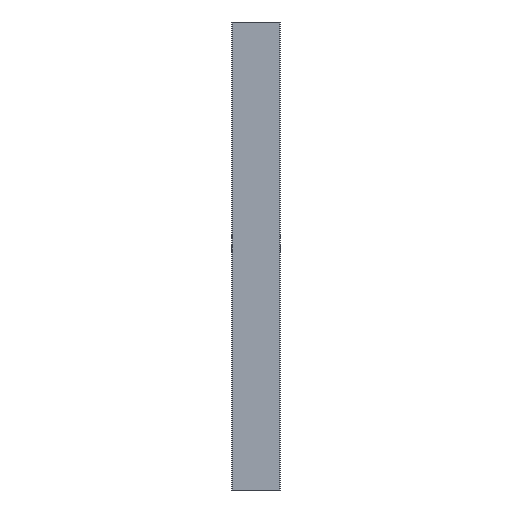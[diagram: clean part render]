
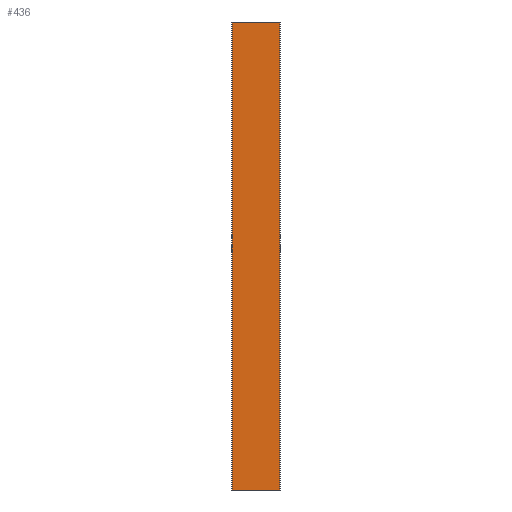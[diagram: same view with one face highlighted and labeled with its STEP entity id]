
A CAD part, front view. The second image highlights one B-rep face of the part: STEP entity #436.
In plain terms, the highlighted planar face has unit normal (0, -1, 0).
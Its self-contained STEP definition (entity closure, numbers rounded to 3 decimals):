
#409 = ORIENTED_EDGE ( 'NONE', *, *, #433, .F. ) ;
#410 = EDGE_CURVE ( 'NONE', #466, #438, #1094, .T. ) ;
#427 = EDGE_CURVE ( 'NONE', #466, #475, #1113, .T. ) ;
#428 = EDGE_LOOP ( 'NONE', ( #477, #409, #434, #435 ) ) ;
#430 = EDGE_CURVE ( 'NONE', #475, #440, #1129, .T. ) ;
#433 = EDGE_CURVE ( 'NONE', #438, #440, #1148, .T. ) ;
#434 = ORIENTED_EDGE ( 'NONE', *, *, #410, .F. ) ;
#435 = ORIENTED_EDGE ( 'NONE', *, *, #427, .T. ) ;
#436 = ADVANCED_FACE ( 'NONE', ( #1147 ), #1134, .F. ) ;
#438 = VERTEX_POINT ( 'NONE', #1170 ) ;
#440 = VERTEX_POINT ( 'NONE', #1130 ) ;
#466 = VERTEX_POINT ( 'NONE', #1241 ) ;
#475 = VERTEX_POINT ( 'NONE', #1233 ) ;
#477 = ORIENTED_EDGE ( 'NONE', *, *, #430, .T. ) ;
#1091 = DIRECTION ( 'NONE',  ( 1., 0., 0. ) ) ;
#1092 = VECTOR ( 'NONE', #1091, 1000. ) ;
#1093 = CARTESIAN_POINT ( 'NONE',  ( -30.5, 8.761, 595. ) ) ;
#1094 = LINE ( 'NONE', #1093, #1092 ) ;
#1113 = LINE ( 'NONE', #1150, #1132 ) ;
#1122 = DIRECTION ( 'NONE',  ( 1., 0., 0. ) ) ;
#1123 = VECTOR ( 'NONE', #1122, 1000. ) ;
#1129 = LINE ( 'NONE', #1139, #1123 ) ;
#1130 = CARTESIAN_POINT ( 'NONE',  ( 30.5, 8.761, 0. ) ) ;
#1131 = DIRECTION ( 'NONE',  ( 0., 0., -1. ) ) ;
#1132 = VECTOR ( 'NONE', #1131, 1000. ) ;
#1134 = PLANE ( 'NONE',  #1149 ) ;
#1139 = CARTESIAN_POINT ( 'NONE',  ( -30.5, 8.761, 0. ) ) ;
#1147 = FACE_OUTER_BOUND ( 'NONE', #428, .T. ) ;
#1148 = LINE ( 'NONE', #1179, #1178 ) ;
#1149 = AXIS2_PLACEMENT_3D ( 'NONE', #1176, #1173, #1172 ) ;
#1150 = CARTESIAN_POINT ( 'NONE',  ( -30.5, 8.761, 595. ) ) ;
#1170 = CARTESIAN_POINT ( 'NONE',  ( 30.5, 8.761, 595. ) ) ;
#1172 = DIRECTION ( 'NONE',  ( 0., 0., 1. ) ) ;
#1173 = DIRECTION ( 'NONE',  ( 0., 1., 0. ) ) ;
#1176 = CARTESIAN_POINT ( 'NONE',  ( -30.5, 8.761, 595. ) ) ;
#1177 = DIRECTION ( 'NONE',  ( 0., 0., -1. ) ) ;
#1178 = VECTOR ( 'NONE', #1177, 1000. ) ;
#1179 = CARTESIAN_POINT ( 'NONE',  ( 30.5, 8.761, 595. ) ) ;
#1233 = CARTESIAN_POINT ( 'NONE',  ( -30.5, 8.761, 0. ) ) ;
#1241 = CARTESIAN_POINT ( 'NONE',  ( -30.5, 8.761, 595. ) ) ;
